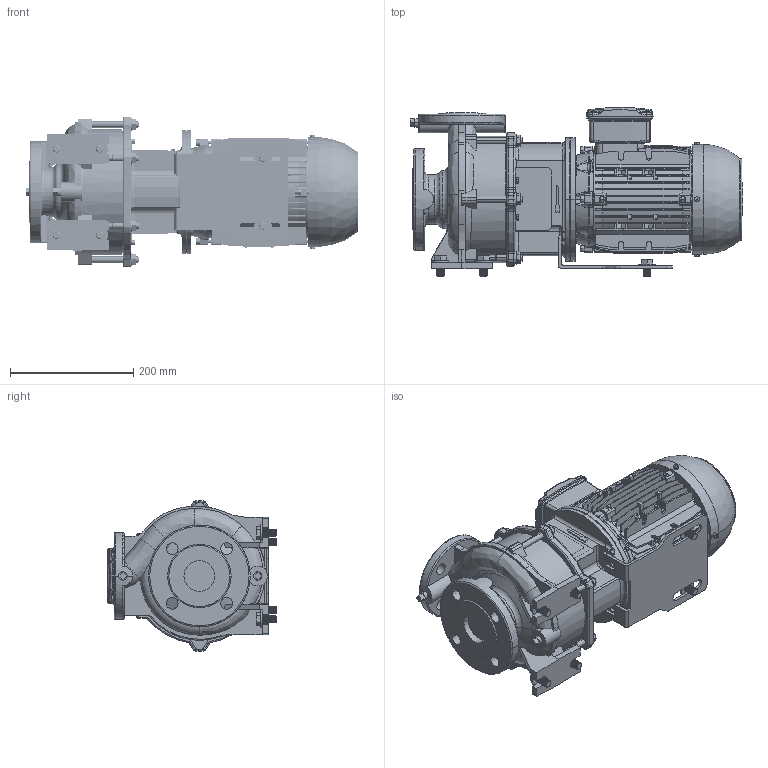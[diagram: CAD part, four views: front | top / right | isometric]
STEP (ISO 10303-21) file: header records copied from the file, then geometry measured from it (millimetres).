
FILE_DESCRIPTION (( 'STEP AP214' ), '1' );
FILE_NAME ('GSD2 32-125_1.5 & 2.2_(90SL)_W21.STEP', '2026-07-02T04:50:55', ( '' ), ( '' ), 'SwSTEP 2.0', 'SolidWorks 2024', '' );
FILE_SCHEMA (( 'AUTOMOTIVE_DESIGN' ));
Length unit declared in the file: millimetre
Products named in the file (7): 90S_L ALIE3_W21T_B5; 32-125-90S_L_ﾃﾞﾌｫﾙﾄ; CGSD1-4113; GSD2  32-125_1.5 & 2.2_(90SL)_W21; Parametric Flat Washer_M12; Parametric bolt_SFT-A297B; Parametric bolt_SFT-A295B
Assembly tree (15 placements, depth 2):
  GSD2  32-125_1.5 & 2.2_(90SL)_W21
    32-125-90S_L_ﾃﾞﾌｫﾙﾄ
    90S_L ALIE3_W21T_B5
    CGSD1-4113
    Parametric bolt_SFT-A295B  x2
    Parametric Flat Washer_M12  x6
    Parametric bolt_SFT-A297B  x4
Bounding box: 538.2 x 274 x 244.01 mm (x, y, z)
Volume: 11018977.6 mm3; surface area: 1010348 mm2
Topology: 15 solids, 19 shells, 3693 faces, 9684 edges, 6212 vertices
Faces by surface type: plane 1916, cylinder 997, torus 304, bspline 256, cone 198, sphere 22
Entity records: 185943 total; most frequent: CARTESIAN_POINT 102838, ORIENTED_EDGE 18112, DIRECTION 16104, EDGE_CURVE 9056, VERTEX_POINT 5832, AXIS2_PLACEMENT_3D 5431, VECTOR 5242, LINE 5242
